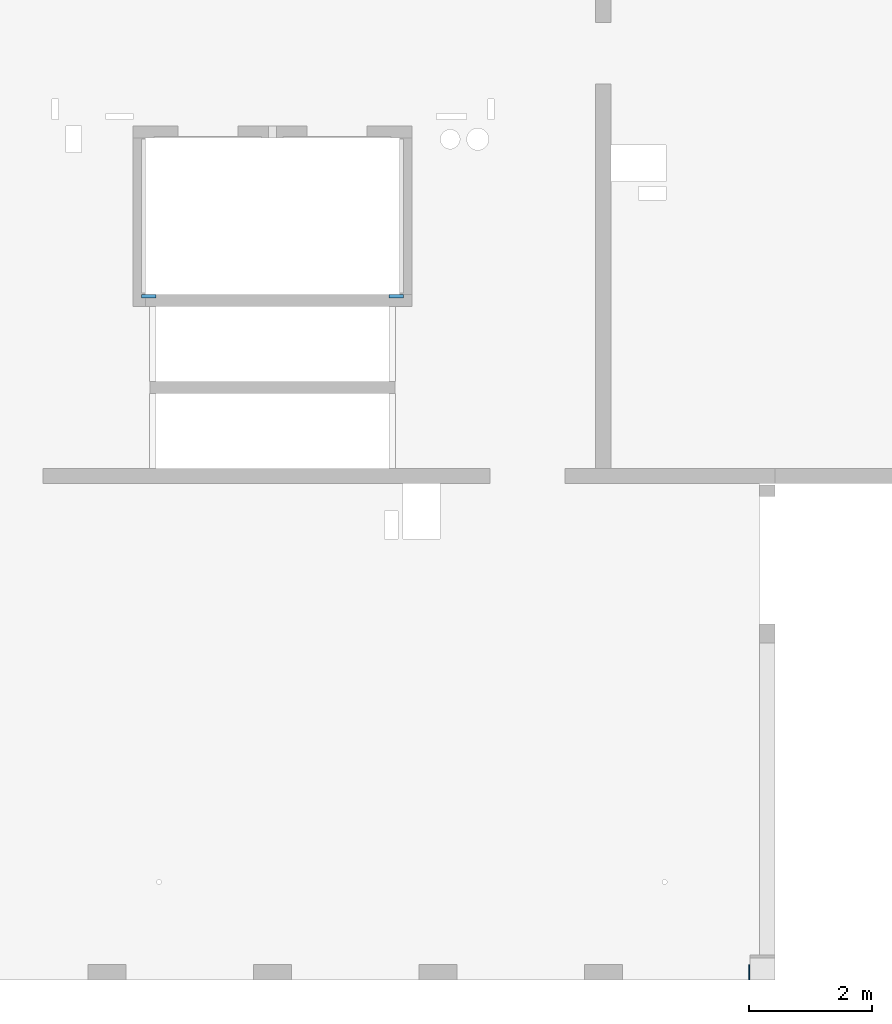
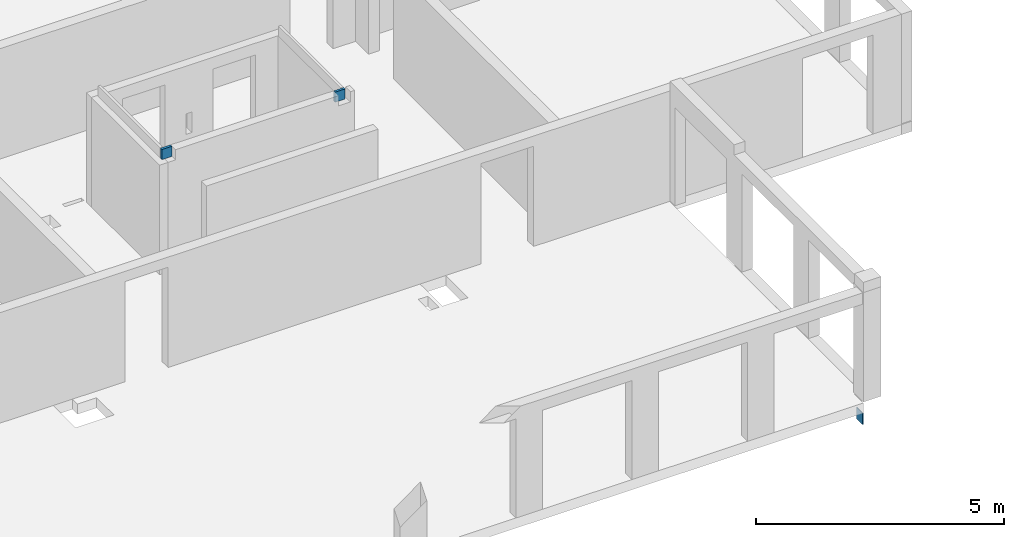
# One storey, part 5 of 8: 3 walls, 1 opening.
"""IFC2X3 building model written with IfcOpenShell, lengths in millimetres."""

from ifc_helpers import new_model, entity, si_unit, converted_unit, derived_unit, direction, frame, frame_2d, origin, place, context, subcontext, project, spatial, rectangle, extrude, material, layer, layer_set, layer_usage, type_object, element, save


model = new_model("IFC2X3")

# Units and contexts
model_context = context("Model", 3, precision=0.01, world=origin(), true_north=direction((6.12303176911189e-17, 1.0)))
body_context = subcontext(model_context, "Body", "Model", "MODEL_VIEW")
ifc_project = project(units=[si_unit("LENGTHUNIT", "METRE", prefix="MILLI"), si_unit("AREAUNIT", "SQUARE_METRE"), si_unit("VOLUMEUNIT", "CUBIC_METRE"), converted_unit("PLANEANGLEUNIT", "DEGREE", entity("IfcRatioMeasure", 0.0174532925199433), si_unit("PLANEANGLEUNIT", "RADIAN"), dimensions=[0, 0, 0, 0, 0, 0, 0]), si_unit("MASSUNIT", "GRAM", prefix="KILO"), derived_unit("MASSDENSITYUNIT", [(si_unit("MASSUNIT", "GRAM", prefix="KILO"), 1), (si_unit("LENGTHUNIT", "METRE"), -3)]), si_unit("TIMEUNIT", "SECOND"), si_unit("FREQUENCYUNIT", "HERTZ"), si_unit("THERMODYNAMICTEMPERATUREUNIT", "DEGREE_CELSIUS"), derived_unit("THERMALTRANSMITTANCEUNIT", [(si_unit("MASSUNIT", "GRAM", prefix="KILO"), 1), (si_unit("THERMODYNAMICTEMPERATUREUNIT", "KELVIN"), -1), (si_unit("TIMEUNIT", "SECOND"), -3)]), derived_unit("VOLUMETRICFLOWRATEUNIT", [(si_unit("LENGTHUNIT", "METRE"), 3), (si_unit("TIMEUNIT", "SECOND"), -1)]), si_unit("ELECTRICCURRENTUNIT", "AMPERE"), si_unit("ELECTRICVOLTAGEUNIT", "VOLT"), si_unit("POWERUNIT", "WATT"), si_unit("FORCEUNIT", "NEWTON", prefix="KILO"), si_unit("ILLUMINANCEUNIT", "LUX"), si_unit("LUMINOUSFLUXUNIT", "LUMEN"), si_unit("LUMINOUSINTENSITYUNIT", "CANDELA"), derived_unit("USERDEFINED", [(si_unit("MASSUNIT", "GRAM", prefix="KILO"), -1), (si_unit("LENGTHUNIT", "METRE"), -2), (si_unit("TIMEUNIT", "SECOND"), 3), (si_unit("LUMINOUSFLUXUNIT", "LUMEN"), 1)]), derived_unit("LINEARVELOCITYUNIT", [(si_unit("LENGTHUNIT", "METRE"), 1), (si_unit("TIMEUNIT", "SECOND"), -1)]), si_unit("PRESSUREUNIT", "PASCAL"), derived_unit("USERDEFINED", [(si_unit("LENGTHUNIT", "METRE"), -2), (si_unit("MASSUNIT", "GRAM", prefix="KILO"), 1), (si_unit("TIMEUNIT", "SECOND"), -2)])], contexts=[model_context])

# Site, building, storey
site_placement = place(None, origin())
site = spatial("IfcSite", under=ifc_project, at=site_placement, Name="Default", CompositionType="ELEMENT")
building_placement = place(site_placement, origin())
building = spatial("IfcBuilding", under=site, at=building_placement, Name="niet gebruiken", CompositionType="ELEMENT")
storey_placement = place(building_placement, frame((0.0, 0.0, 42300.0)))
storey = spatial("IfcBuildingStorey", under=building, at=storey_placement, Name="14 veertiende verdieping", CompositionType="ELEMENT", Elevation=42300.0)

# Wall, opening
ifc_material_1 = material(Name="NLRS_f2_beton ihwg")
ifc_layer_1 = layer(ifc_material_1, 250.0)
ifc_layer_set_1 = layer_set([ifc_layer_1], Name="Basic Wall:NLRS_21.21_WA_beton ihwg d=250_gen")
ifc_layer_usage_1 = layer_usage(ifc_layer_set_1, "AXIS2", "NEGATIVE", 125.0)
wall_type_1 = type_object("IfcWallType", Name="Basic Wall:NLRS_21.21_WA_beton ihwg d=250_gen", PredefinedType="STANDARD", material=ifc_layer_set_1)
wall_1_placement = place(storey_placement, frame((50970.0, 28881.0, -620.0)))
wall_1 = element("IfcWallStandardCase", 1, at=wall_1_placement, inside=storey, type_object=wall_type_1, material=ifc_layer_usage_1, Name="Basic Wall:NLRS_21.21_WA_beton ihwg d=250_gen", ObjectType="Basic Wall:NLRS_21.21_WA_beton ihwg d=250_gen", context=body_context, shape_type="SweptSolid", body=[
    extrude(rectangle(XDim=19.999999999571, YDim=250.000000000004, at=frame_2d((9.99999999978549, 1.63424829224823e-13), x_axis=(-1.0, 0.0))), origin(), (0.0, 0.0, 1.0), 280.000000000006),
])
opening_placement = place(wall_1_placement, origin())
element("IfcOpeningElement", 2, at=opening_placement, cuts=wall_1, Name="Basic Wall:NLRS_21.21_WA_beton ihwg d=250_gen", ObjectType="Opening", context=body_context, shape_type="SweptSolid", body=[
    extrude(rectangle(XDim=2440.0, YDim=2080.0, at=frame_2d((0.0, 0.0), x_axis=(0.0, 1.0))), frame((-1020.0, -1399.0, -1220.0), z_axis=(0.0, 1.0, 0.0), x_axis=(-1.0, 0.0, 0.0)), (0.0, 0.0, 1.0), 3048.0),
])

# Walls
ifc_material_2 = material(Name="NLRS_f2_beton prefab")
ifc_layer_2 = layer(ifc_material_2, 60.0)
ifc_layer_set_2 = layer_set([ifc_layer_2], Name="Basic Wall:NLRS_22.21_WA_beton prefab d=60_gen")
ifc_layer_usage_2 = layer_usage(ifc_layer_set_2, "AXIS2", "NEGATIVE", 30.0)
wall_type_2 = type_object("IfcWallType", Name="Basic Wall:NLRS_22.21_WA_beton prefab d=60_gen", PredefinedType="STANDARD", material=ifc_layer_set_2)
wall_2_placement = place(storey_placement, frame((41065.0, 39916.0, 2630.0)))
element("IfcWallStandardCase", 3, at=wall_2_placement, inside=storey, type_object=wall_type_2, material=ifc_layer_usage_2, Name="Basic Wall:NLRS_22.21_WA_beton prefab d=60_gen", ObjectType="Basic Wall:NLRS_22.21_WA_beton prefab d=60_gen", context=body_context, shape_type="SweptSolid", body=[
    extrude(rectangle(XDim=234.999967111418, YDim=60.0000000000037, at=frame_2d((117.499983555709, -4.12292422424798e-12), x_axis=(-1.0, 0.0))), origin(), (0.0, 0.0, 1.0), 250.000000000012),
])
ifc_layer_usage_3 = layer_usage(ifc_layer_set_2, "AXIS2", "POSITIVE", -30.0)
wall_3_placement = place(storey_placement, frame((45335.0, 39916.0, 2630.0), z_axis=(0.0, 0.0, 1.0), x_axis=(-1.0, 0.0, 0.0)))
element("IfcWallStandardCase", 4, at=wall_3_placement, inside=storey, type_object=wall_type_2, material=ifc_layer_usage_3, Name="Basic Wall:NLRS_22.21_WA_beton prefab d=60_gen", ObjectType="Basic Wall:NLRS_22.21_WA_beton prefab d=60_gen", context=body_context, shape_type="SweptSolid", body=[
    extrude(rectangle(XDim=234.999967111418, YDim=60.0000000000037, at=frame_2d((117.499983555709, 4.12114786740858e-12), x_axis=(-1.0, 0.0))), origin(), (0.0, 0.0, 1.0), 250.000000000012),
])

save(model, "model.ifc")
